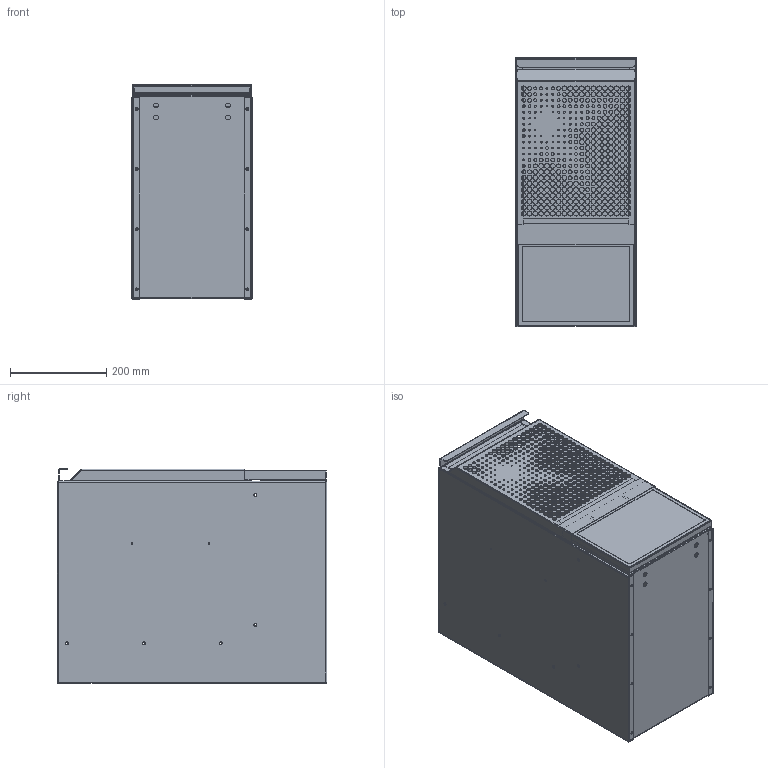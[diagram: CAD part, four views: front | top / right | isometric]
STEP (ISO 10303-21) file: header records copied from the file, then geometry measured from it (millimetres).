
FILE_DESCRIPTION (( 'STEP AP214' ), '1' );
FILE_NAME ('MS-IFU-250.STEP', '2024-05-30T12:23:49', ( '' ), ( '' ), 'SwSTEP 2.0', 'SolidWorks 2023', '' );
FILE_SCHEMA (( 'AUTOMOTIVE_DESIGN' ));
Length unit declared in the file: millimetre
Products named in the file (1): MS-IFU-250
Bounding box: 250 x 560.36 x 445.11 mm (x, y, z)
Volume: 1134931.1 mm3; surface area: 2334610.5 mm2
Topology: 11 solids, 11 shells, 1821 faces, 5225 edges, 3426 vertices
Faces by surface type: cylinder 1309, plane 432, cone 60, bspline 20
Entity records: 64074 total; most frequent: CARTESIAN_POINT 11773, DIRECTION 11439, ORIENTED_EDGE 10450, EDGE_CURVE 5225, AXIS2_PLACEMENT_3D 4452, VERTEX_POINT 3426, EDGE_LOOP 2875, CIRCLE 2650
